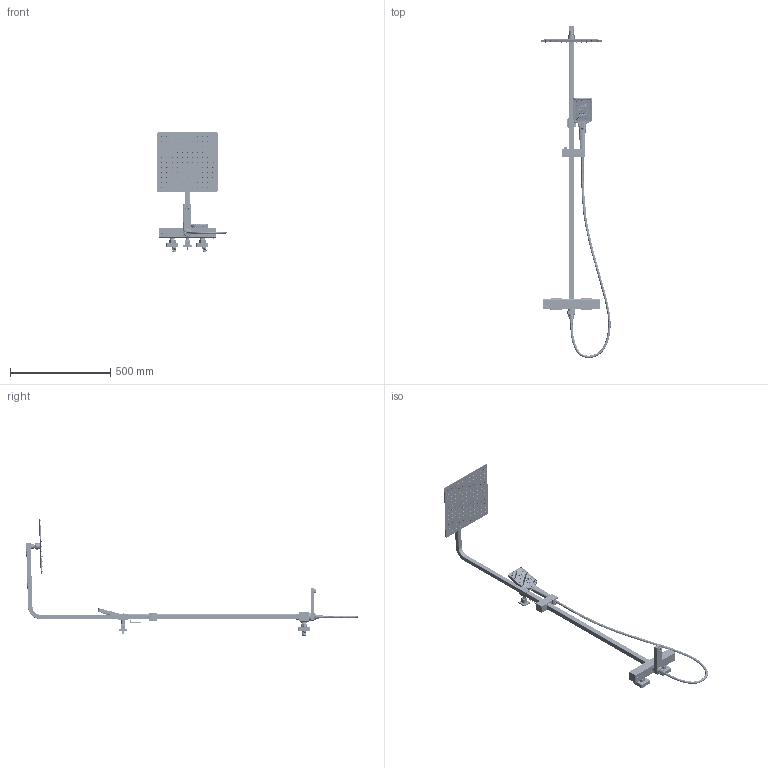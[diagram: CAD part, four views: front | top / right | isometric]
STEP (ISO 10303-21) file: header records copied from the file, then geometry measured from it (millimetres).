
FILE_DESCRIPTION((''),'2;1');
FILE_NAME('PT-739901-240322_ASM','2024-06-20T09:57:53',('GL-JISHU1'),(''),'CREO PARAMETRIC BY PTC INC, 2021063','CREO PARAMETRIC BY PTC INC, 2021063','');
FILE_SCHEMA(('AUTOMOTIVE_DESIGN { 1 0 10303 214 1 1 1 1 }'));
Products named in the file (252): 3ZT-739901-HCR_4_1; 3ZT-47115-1-MAA_4_1; 3SJ-001044-MAA_4_1; 3FX-001063-MAA_4_1; 4TT-001031-AJJ_4_1; 3SJ-001046-MAA_4_1; 3FX-001064-MAA_4_1; 4YG-001032-AJJ_4_1; 5JT-001180-ACR_4_1; 4JT-001211-AJJ_4_1; 3SJ-001037-MAA_4_1; 5SZ-001006-BCR_4_1; 3CX-001036-BAA_4_1_1; 3CX-001036-BAA_4_2_1; 3CX-001036-BAA_4_ASM_1_ASM; 5JT-001069-ACR_4_1; 3SJ-001074-MAA_4_1; 5BS-47115-1-HCR_4_1; 3JQ-001077-NAA_4_1; 3JQ-001117-NAA_4_1; 5BS-47115-HCR_4_1; 3JQ-001095-NAA_4_1; 3JQ-001519-NAA_4_1; 3WD-001014-MAA_4_1; 3WK-001004-ACR_4_1; 3SJ-001075-MAA_4_1; 5SN-001013-ACR_4_1; 3JQ-001528-NAA_4_1; 4JT-001182-AJJ_4_1; 3SJ-001032-MAA_4_1_1; 3SJ-001032-MAA_4_2_1; 3SJ-001032-MAA_4_3_1; 3SJ-001032-MAA_4_ASM_1_ASM; 3JQ-001341-NAA_4_1; 5LM-001022-ACR_4_1; 3JQ-001386-NAA_4_1; 3ZB-001003-KCR_4_1; 3QJ-001001-AAA_4_1; 3LS-001011-JAA_4_1; 3SN-001001-MCR_4_1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
Assembly tree (395 placements, depth 9):
  PT-739901-240322_ASM
    PT-739901-3D-240321_ASM_1_ASM
      PT-739901-000_ASM_9_ASM_1_ASM
        3ZT-739901-HCR_4_1
        3ZT-47115-1-MAA_4_1
        3SJ-001044-MAA_4_1
        3FX-001063-MAA_4_1
        4TT-001031-AJJ_4_1  x2
        3SJ-001046-MAA_4_1
        3FX-001064-MAA_4_1
        4YG-001032-AJJ_4_1  x2
        5JT-001180-ACR_4_1
        4JT-001211-AJJ_4_1
        3SJ-001037-MAA_4_1
        5SZ-001006-BCR_4_1
        3CX-001036-BAA_4_ASM_1_ASM
          3CX-001036-BAA_4_1_1
          3CX-001036-BAA_4_2_1
        5JT-001069-ACR_4_1
        3SJ-001074-MAA_4_1  x2
        5BS-47115-1-HCR_4_1
        3JQ-001077-NAA_4_1  x4
        3JQ-001117-NAA_4_1
        5BS-47115-HCR_4_1
        3JQ-001095-NAA_4_1
        3JQ-001519-NAA_4_1
        3WD-001014-MAA_4_1
        3WK-001004-ACR_4_1
        3SJ-001075-MAA_4_1
        5SN-001013-ACR_4_1
        3JQ-001528-NAA_4_1  x2
        4JT-001182-AJJ_4_1  x2
        3SJ-001032-MAA_4_ASM_1_ASM  x2
          3SJ-001032-MAA_4_1_1
          3SJ-001032-MAA_4_2_1
          3SJ-001032-MAA_4_3_1
        3JQ-001341-NAA_4_1  x2
        5LM-001022-ACR_4_1  x2
        3JQ-001386-NAA_4_1  x2
        3ZB-001003-KCR_4_1  x2
        3QJ-001001-AAA_4_1  x2
        3LS-001011-JAA_4_1  x4
        3SN-001001-MCR_4_1  x2
        3TH-001001-JAA_4_1
        3LS-001492-JAA_4_1
        3JQ-001529-NAA_4_ASM_1_ASM  x2
          3JQ-001529-NAA_4_1_1
          3JQ-001529-NAA_4_2_1
        3LS-001025-JAA_4_1  x2
        3SJ-001073-MAA_4_1  x2
        3WG-001009-JCR_ASM_6_ASM_1_ASM
          2407-0001_ASM_4_ASM_1_ASM
            2407-1_4_1
            2407-2_4_1
            2407-4_4_1
            2407-3_4_1
            PD-24X13X3_4_1
            O-RING18X2_4_1
          2407-0002_ASM_8_ASM_1_ASM
            2407-5_4_1
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Bounding box: 345.54 x 1654.01 x 596.06 mm (x, y, z)
Volume: 1276968.8 mm3; surface area: 1327914.6 mm2
Topology: 384 solids, 392 shells, 13175 faces, 34641 edges, 22607 vertices
Faces by surface type: plane 4390, cylinder 4141, cone 2127, bspline 1192, torus 1124, sphere 123, extrusion 78
Entity records: 546486 total; most frequent: CARTESIAN_POINT 242437, ORIENTED_EDGE 57124, DIRECTION 55205, EDGE_CURVE 28562, AXIS2_PLACEMENT_3D 22214, VERTEX_POINT 18745, EDGE_LOOP 12855, CIRCLE 11761
